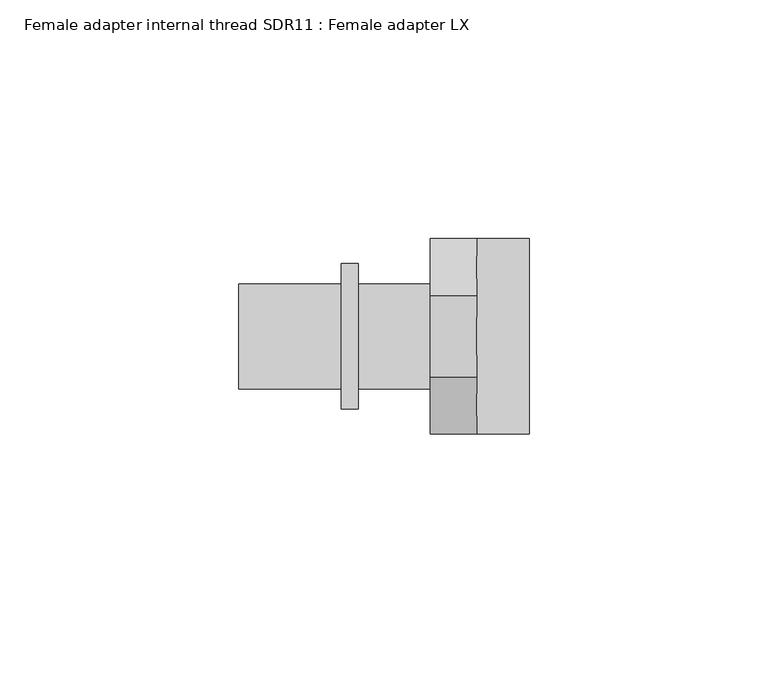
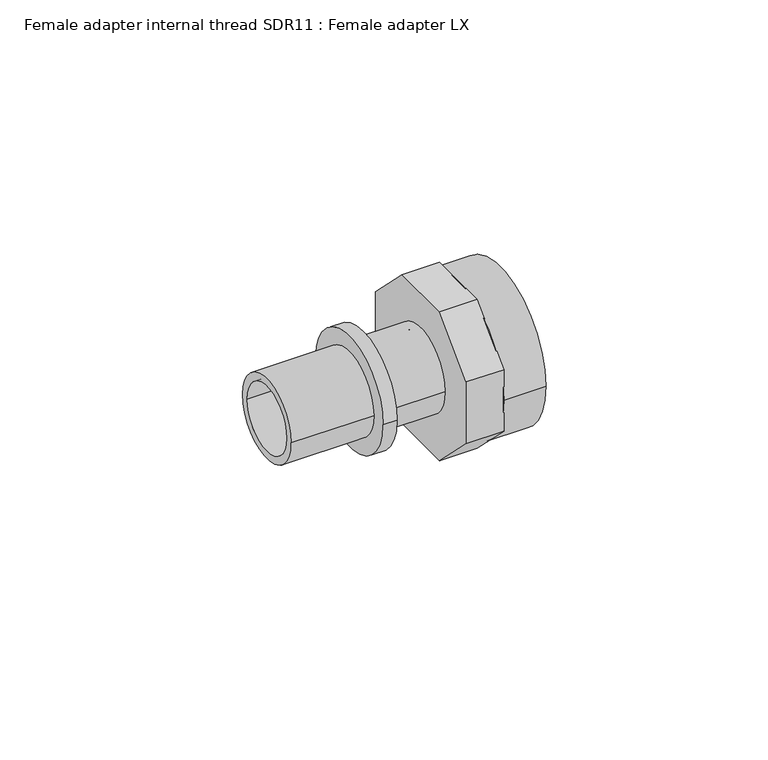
"""IFC4 building model written with IfcOpenShell, lengths in millimetres: pipe fitting geometry, Female adapter internal thread SDR11 : Female adapter LX."""

from ifc_helpers import new_model, si_unit, point, frame, origin, origin_2d, place, context, project, spatial, polyline, circle_curve, trimmed, segment, composite_curve, outline, extrude, source, transform, mapped, element, save
from ifc_brep_helpers import plane_surface, cylinder_surface, revolved_surface, advanced_brep


def female_adapter_internal_thread_sdr11_female_adapter_lx_4a9fde89(model_context):
    return source(origin(), model_context, "Body", "SolidModel", [
        extrude(outline(composite_curve([segment(trimmed(circle_curve(origin_2d(), 20.5), [point((20.5, 0.0))], [point((-20.5, 0.0))], False, "CARTESIAN"), True, "CONTINUOUS"), segment(trimmed(circle_curve(origin_2d(), 20.5), [point((-20.5, 0.0))], [point((20.5, 0.0))], False, "CARTESIAN"), True, "CONTINUOUS")], self_intersect=False), holes=[composite_curve([segment(trimmed(circle_curve(origin_2d(), 15.2), [point((15.2, 0.0))], [point((-15.2, 0.0))], True, "CARTESIAN"), True, "CONTINUOUS"), segment(trimmed(circle_curve(origin_2d(), 15.2), [point((-15.2, 0.0))], [point((15.2, 0.0))], True, "CARTESIAN"), True, "CONTINUOUS")], self_intersect=False)]), frame((9.8, 0.0, 0.0), z_axis=(1.0, 0.0, 0.0), x_axis=(0.0, 1.0, 0.0)), (0.0, 0.0, 1.0), 11.0),
        advanced_brep(
        [(-18.6, 11.0, 0.0), (-18.6, -11.0, 0.0), (-40.1, -11.0, 0.0), (-40.1, 11.0, 0.0), (-15.0, 15.25, 0.0), (-15.0, -15.25, 0.0), (-18.6, -15.25, 0.0), (-18.6, 15.25, 0.0), (0.0, 11.0, 0.0), (0.0, -11.0, 0.0), (-15.0, -11.0, 0.0), (-15.0, 11.0, 0.0), (-40.1, 8.9, 0.0), (-40.1, -8.9, 0.0), (0.0, -8.9, 0.0), (0.0, 8.9, 0.0)],
        [
            (0, 1, circle_curve(frame((-18.6, 0.0, 0.0), z_axis=(-1.0, 0.0, 0.0), x_axis=(0.0, -1.0, 0.0)), 11.0)),
            (1, 2),
            (2, 3, circle_curve(frame((-40.1, 0.0, 0.0), z_axis=(1.0, 0.0, 0.0), x_axis=(0.0, -1.0, 0.0)), 11.0)),
            (3, 0),
            (4, 5, circle_curve(frame((-15.0, 0.0, 0.0), z_axis=(-1.0, 0.0, 0.0), x_axis=(0.0, -1.0, 0.0)), 15.25)),
            (5, 6),
            (6, 7, circle_curve(frame((-18.6, 0.0, 0.0), z_axis=(1.0, 0.0, 0.0), x_axis=(0.0, -1.0, 0.0)), 15.25)),
            (7, 4),
            (8, 9, circle_curve(frame((0.0, 0.0, 0.0), z_axis=(-1.0, 0.0, 0.0), x_axis=(0.0, -1.0, 0.0)), 11.0)),
            (9, 10),
            (10, 11, circle_curve(frame((-15.0, 0.0, 0.0), z_axis=(1.0, 0.0, 0.0), x_axis=(0.0, -1.0, 0.0)), 11.0)),
            (11, 8),
            (12, 13, circle_curve(frame((-40.1, 0.0, 0.0), z_axis=(-1.0, 0.0, 0.0), x_axis=(0.0, -1.0, 0.0)), 8.9)),
            (13, 14),
            (14, 15, circle_curve(frame((0.0, 0.0, 0.0), z_axis=(1.0, 0.0, 0.0), x_axis=(0.0, -1.0, 0.0)), 8.9)),
            (15, 12),
            (2, 3, circle_curve(frame((-40.1, 0.0, 0.0), z_axis=(-1.0, 0.0, 0.0), x_axis=(0.0, 1.0, 0.0)), 11.0)),
            (12, 13, circle_curve(frame((-40.1, 0.0, 0.0), z_axis=(1.0, 0.0, 0.0), x_axis=(0.0, 1.0, 0.0)), 8.9)),
            (1, 0, circle_curve(frame((-18.6, 0.0, 0.0), z_axis=(-1.0, 0.0, 0.0), x_axis=(0.0, 1.0, 0.0)), 11.0)),
            (6, 7, circle_curve(frame((-18.6, 0.0, 0.0), z_axis=(-1.0, 0.0, 0.0), x_axis=(0.0, 1.0, 0.0)), 15.25)),
            (5, 4, circle_curve(frame((-15.0, 0.0, 0.0), z_axis=(-1.0, 0.0, 0.0), x_axis=(0.0, 1.0, 0.0)), 15.25)),
            (10, 11, circle_curve(frame((-15.0, 0.0, 0.0), z_axis=(-1.0, 0.0, 0.0), x_axis=(0.0, 1.0, 0.0)), 11.0)),
            (9, 8, circle_curve(frame((0.0, 0.0, 0.0), z_axis=(-1.0, 0.0, 0.0), x_axis=(0.0, 1.0, 0.0)), 11.0)),
            (14, 15, circle_curve(frame((0.0, 0.0, 0.0), z_axis=(-1.0, 0.0, 0.0), x_axis=(0.0, 1.0, 0.0)), 8.9)),
        ],
        [
            cylinder_surface(frame((0.0, 0.0, 0.0), z_axis=(1.0, 0.0, 0.0), x_axis=(0.0, -1.0, 0.0)), 11.0),
            cylinder_surface(frame((0.0, 0.0, 0.0), z_axis=(1.0, 0.0, 0.0), x_axis=(0.0, -1.0, 0.0)), 15.25),
            revolved_surface(polyline([(0.0, -8.9, 0.0), (-40.1, -8.9, 0.0)]), (0.0, 0.0, 0.0), (1.0, 0.0, 0.0)),
            plane_surface(frame((-40.1, 0.0, 0.0), z_axis=(-1.0, 0.0, 0.0), x_axis=(0.0, 1.0, 0.0))),
            cylinder_surface(frame((0.0, 0.0, 0.0), z_axis=(1.0, 0.0, 0.0), x_axis=(0.0, 1.0, 0.0)), 11.0),
            plane_surface(frame((-18.6, 0.0, 0.0), z_axis=(-1.0, 0.0, 0.0), x_axis=(0.0, 1.0, 0.0))),
            cylinder_surface(frame((0.0, 0.0, 0.0), z_axis=(1.0, 0.0, 0.0), x_axis=(0.0, 1.0, 0.0)), 15.25),
            plane_surface(frame((-15.0, 0.0, 0.0), z_axis=(1.0, 0.0, 0.0), x_axis=(0.0, 1.0, 0.0))),
            plane_surface(frame((0.0, 0.0, 0.0), z_axis=(1.0, 0.0, 0.0), x_axis=(0.0, 1.0, 0.0))),
            revolved_surface(polyline([(0.0, 8.9, 0.0), (-40.1, 8.9, 0.0)]), (0.0, 0.0, 0.0), (1.0, 0.0, 0.0)),
        ],
        [
            (0, [[1, 2, 3, 4]]),
            (1, [[5, 6, 7, 8]]),
            (0, [[9, 10, 11, 12]]),
            (2, [[13, 14, 15, 16]]),
            (3, [[17, -3], [18, -13]]),
            (4, [[19, -4, -17, -2]]),
            (5, [[20, -7], [-19, -1]]),
            (6, [[21, -8, -20, -6]]),
            (7, [[-21, -5], [22, -11]]),
            (4, [[23, -12, -22, -10]]),
            (8, [[-23, -9], [24, -15]]),
            (9, [[-18, -16, -24, -14]]),
        ],
    ),
        extrude(outline(polyline([(-20.5, 8.491378), (-8.491378, 20.5), (8.491378, 20.5), (20.5, 8.491378), (20.5, -8.491378), (8.491378, -20.5), (-8.491378, -20.5), (-20.5, -8.491378), (-20.5, 8.491378)])), frame((0.0, 0.0, 0.0), z_axis=(1.0, 0.0, 0.0), x_axis=(0.0, 1.0, 0.0)), (0.0, 0.0, 1.0), 9.8),
    ])


if __name__ == "__main__":
    model = new_model("IFC4")
    model_context = context("Model", 3, world=origin())
    ifc_project = project(units=[si_unit("LENGTHUNIT", "METRE", prefix="MILLI")], contexts=[model_context])
    site = spatial("IfcSite", under=ifc_project)
    building = spatial("IfcBuilding", under=site)
    placement = place(None, origin())
    female_adapter_internal_thread_sdr11_female_adapter_lx_shape = female_adapter_internal_thread_sdr11_female_adapter_lx_4a9fde89(model_context)
    element("IfcPipeFitting", 1, ObjectType="Female adapter internal thread SDR11 : Female adapter LX", at=placement, inside=building, context=model_context, shape_type="MappedRepresentation", body=[
        mapped(female_adapter_internal_thread_sdr11_female_adapter_lx_shape, transform((0.0, 0.0, 0.0), x_axis=(1.0, 0.0, 0.0), y_axis=(0.0, 1.0, 0.0), z_axis=(0.0, 0.0, 1.0))),
    ])
    save(model, "model.ifc")
